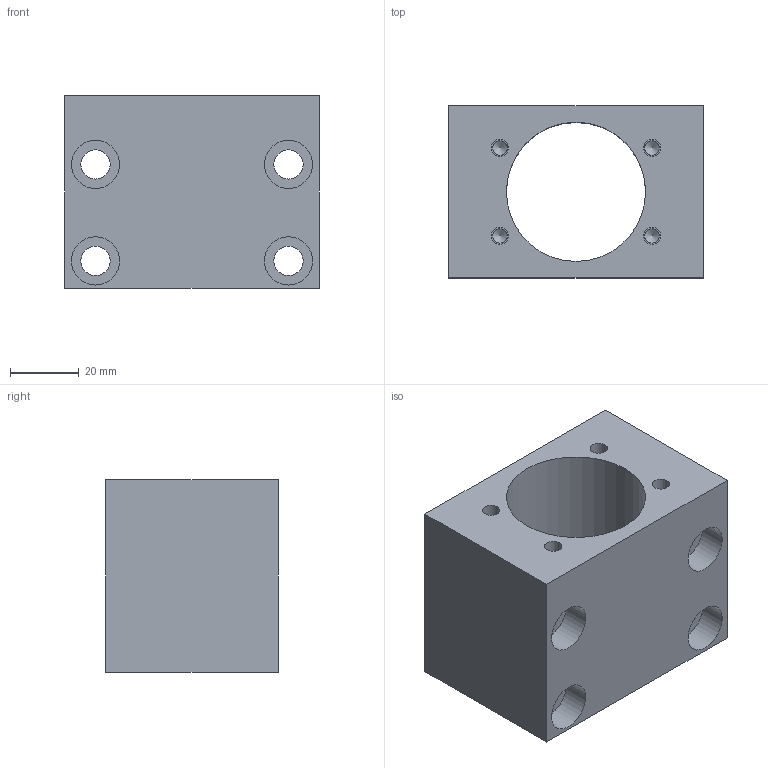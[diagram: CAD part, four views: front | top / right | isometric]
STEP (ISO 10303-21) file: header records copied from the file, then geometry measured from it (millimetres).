
FILE_DESCRIPTION(/* description */ (''),/* implementation_level */ '2;1');
FILE_NAME(/* name */ 'NH25A.stp',/* time_stamp */ '2017-01-05T15:32:56+08:00',/* author */ (''),/* organization */ (''),/* preprocessor_version */ 'ST-DEVELOPER v15',/* originating_system */ 'SIEMENS PLM Software NX 8.5',/* authorisation */ '');
FILE_SCHEMA (('AUTOMOTIVE_DESIGN { 1 0 10303 214 3 1 1 1 }'));
Length unit declared in the file: millimetre
Products named in the file (1): Admi1CF0E4A5a623
Bounding box: 74 x 50 x 56 mm (x, y, z)
Volume: 118724.2 mm3; surface area: 32299.8 mm2
Topology: 1 solids, 1 shells, 43 faces, 92 edges, 63 vertices
Faces by surface type: cylinder 21, plane 18, cone 4
Full cylindrical faces by diameter (mm): 4.2 x4, 5 x4, 8.5 x4, 10 x4, 14 x4, 40.4 x1
Entity records: 1014 total; most frequent: DIRECTION 184, CARTESIAN_POINT 152, ORIENTED_EDGE 108, FACE_BOUND 92, EDGE_LOOP 90, AXIS2_PLACEMENT_3D 86, VERTEX_POINT 54, EDGE_CURVE 54
